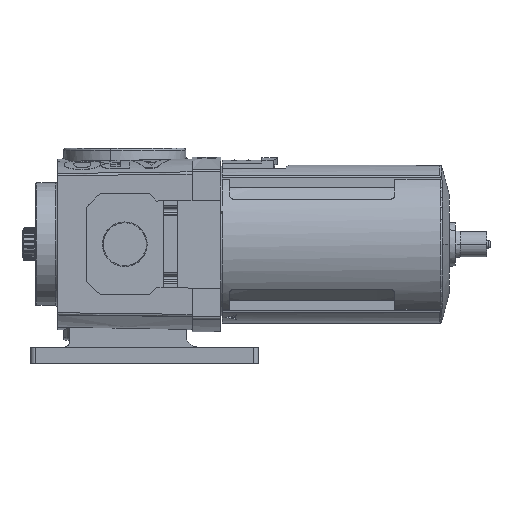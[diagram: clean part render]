
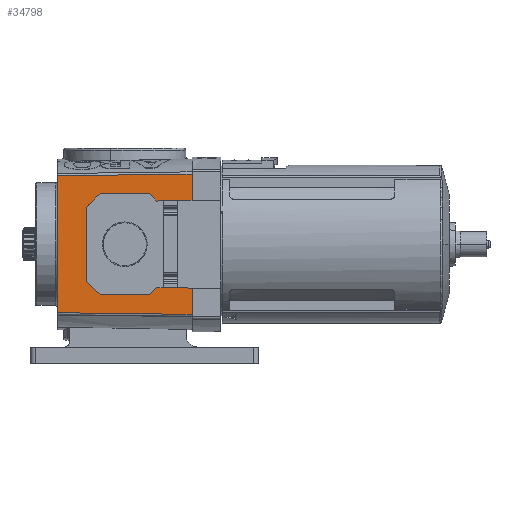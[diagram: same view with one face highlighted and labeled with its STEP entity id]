
A CAD part, left-side view. The second image highlights one B-rep face of the part: STEP entity #34798.
In plain terms, the highlighted planar face has unit normal (-1, 0.018, 0).
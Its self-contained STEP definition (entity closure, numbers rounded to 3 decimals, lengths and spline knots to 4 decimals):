
#30565=PLANE('',#103525);
#34798=ADVANCED_FACE('',(#39504),#30565,.T.);
#39504=FACE_OUTER_BOUND('',#43772,.T.);
#43772=EDGE_LOOP('',(#64672,#64673,#64674,#64675,#64676,#64677,#64678,#64679,
#64680,#64681));
#48003=B_SPLINE_CURVE_WITH_KNOTS('',3,(#162874,#162875,#162876,#162877),
.UNSPECIFIED.,.F.,.F.,(4,4),(0.,1.),.UNSPECIFIED.);
#48012=B_SPLINE_CURVE_WITH_KNOTS('',3,(#163160,#163161,#163162,#163163),
.UNSPECIFIED.,.F.,.F.,(4,4),(0.,1.),.UNSPECIFIED.);
#64672=ORIENTED_EDGE('',*,*,#83622,.F.);
#64673=ORIENTED_EDGE('',*,*,#83589,.T.);
#64674=ORIENTED_EDGE('',*,*,#83557,.F.);
#64675=ORIENTED_EDGE('',*,*,#83555,.T.);
#64676=ORIENTED_EDGE('',*,*,#83623,.F.);
#64677=ORIENTED_EDGE('',*,*,#83616,.F.);
#64678=ORIENTED_EDGE('',*,*,#83552,.F.);
#64679=ORIENTED_EDGE('',*,*,#83550,.T.);
#64680=ORIENTED_EDGE('',*,*,#83548,.F.);
#64681=ORIENTED_EDGE('',*,*,#83620,.T.);
#74000=VERTEX_POINT('',#162847);
#74001=VERTEX_POINT('',#162849);
#74002=VERTEX_POINT('',#162853);
#74003=VERTEX_POINT('',#162857);
#74004=VERTEX_POINT('',#162873);
#74005=VERTEX_POINT('',#162878);
#74006=VERTEX_POINT('',#162933);
#74023=VERTEX_POINT('',#163149);
#74039=VERTEX_POINT('',#163314);
#74042=VERTEX_POINT('',#163325);
#83548=EDGE_CURVE('',#74000,#74001,#90489,.T.);
#83550=EDGE_CURVE('',#74002,#74001,#90491,.T.);
#83552=EDGE_CURVE('',#74002,#74003,#90493,.T.);
#83555=EDGE_CURVE('',#74005,#74004,#48003,.T.);
#83557=EDGE_CURVE('',#74005,#74006,#90495,.T.);
#83589=EDGE_CURVE('',#74023,#74006,#48012,.T.);
#83616=EDGE_CURVE('',#74003,#74039,#90528,.T.);
#83620=EDGE_CURVE('',#74000,#74042,#90532,.T.);
#83622=EDGE_CURVE('',#74023,#74042,#90534,.T.);
#83623=EDGE_CURVE('',#74039,#74004,#90535,.T.);
#90489=LINE('',#162848,#97239);
#90491=LINE('',#162852,#97241);
#90493=LINE('',#162856,#97243);
#90495=LINE('',#162932,#97245);
#90528=LINE('',#163318,#97278);
#90532=LINE('',#163327,#97282);
#90534=LINE('',#163330,#97284);
#90535=LINE('',#163331,#97285);
#97239=VECTOR('',#119057,1.);
#97241=VECTOR('',#119061,1.);
#97243=VECTOR('',#119065,1.);
#97245=VECTOR('',#119069,1.);
#97278=VECTOR('',#119172,1.);
#97282=VECTOR('',#119180,1.);
#97284=VECTOR('',#119184,1.);
#97285=VECTOR('',#119185,1.);
#103525=AXIS2_PLACEMENT_3D('',#163332,#119186,#119187);
#119057=DIRECTION('',(0.012,0.707,-0.707));
#119061=DIRECTION('',(0.,0.,1.));
#119065=DIRECTION('',(-0.012,-0.707,-0.707));
#119069=DIRECTION('',(0.,0.,1.));
#119172=DIRECTION('',(-0.017,-1.,-0.017));
#119180=DIRECTION('',(-0.017,-1.,0.017));
#119184=DIRECTION('',(0.,0.,-1.));
#119185=DIRECTION('',(0.,0.,-1.));
#119186=DIRECTION('',(-1.,0.017,0.));
#119187=DIRECTION('',(-0.017,-1.,0.));
#162847=CARTESIAN_POINT('',(-1.1524,2.1153,0.6898));
#162848=CARTESIAN_POINT('',(-1.1607,1.6386,1.1665));
#162849=CARTESIAN_POINT('',(-1.1522,2.126,0.6791));
#162852=CARTESIAN_POINT('',(-1.1522,2.126,-1.437));
#162853=CARTESIAN_POINT('',(-1.1522,2.126,-0.6791));
#162856=CARTESIAN_POINT('',(-1.1607,1.6386,-1.1665));
#162857=CARTESIAN_POINT('',(-1.1524,2.1153,-0.6898));
#162873=CARTESIAN_POINT('',(-1.1811,0.4724,-1.1496));
#162874=CARTESIAN_POINT('',(-1.1426,2.6772,-1.1229));
#162875=CARTESIAN_POINT('',(-1.1554,1.9423,-1.1319));
#162876=CARTESIAN_POINT('',(-1.1683,1.2073,-1.1408));
#162877=CARTESIAN_POINT('',(-1.1811,0.4724,-1.1496));
#162878=CARTESIAN_POINT('',(-1.1426,2.6772,-1.1229));
#162932=CARTESIAN_POINT('',(-1.1426,2.6772,0.));
#162933=CARTESIAN_POINT('',(-1.1426,2.6772,1.1229));
#163149=CARTESIAN_POINT('',(-1.1811,0.4724,1.1496));
#163160=CARTESIAN_POINT('',(-1.1811,0.4724,1.1496));
#163161=CARTESIAN_POINT('',(-1.1683,1.2073,1.1408));
#163162=CARTESIAN_POINT('',(-1.1554,1.9423,1.1319));
#163163=CARTESIAN_POINT('',(-1.1426,2.6772,1.1229));
#163314=CARTESIAN_POINT('',(-1.1811,0.4724,-0.7185));
#163318=CARTESIAN_POINT('',(-1.1809,0.485,-0.7183));
#163325=CARTESIAN_POINT('',(-1.1811,0.4724,0.7185));
#163327=CARTESIAN_POINT('',(-1.1807,0.493,0.7181));
#163330=CARTESIAN_POINT('',(-1.1811,0.4724,1.2189));
#163331=CARTESIAN_POINT('',(-1.1811,0.4724,1.2189));
#163332=CARTESIAN_POINT('',(-1.1811,0.4724,0.));
